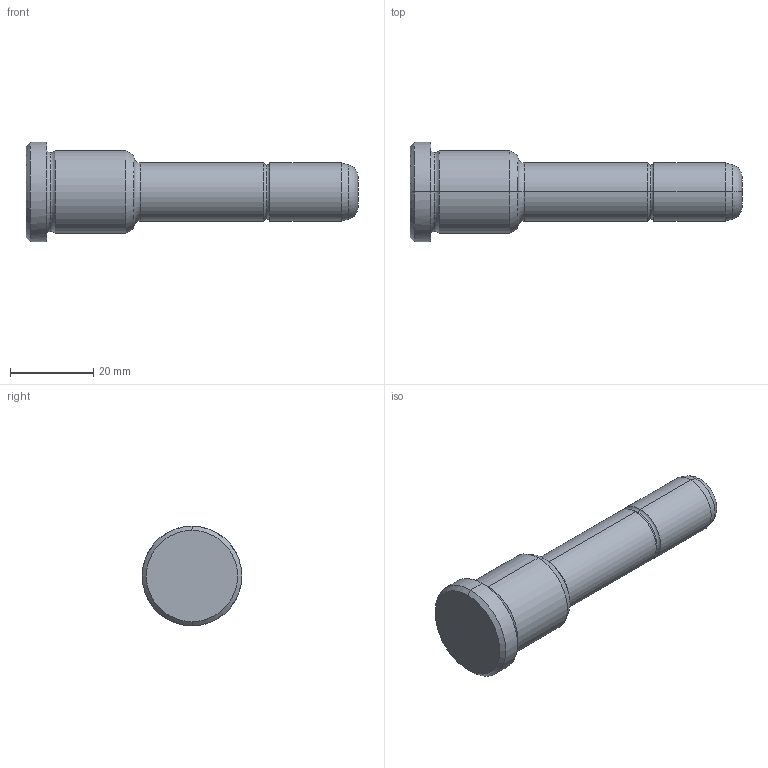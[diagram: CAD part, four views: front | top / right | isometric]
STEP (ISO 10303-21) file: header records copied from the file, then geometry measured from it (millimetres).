
FILE_DESCRIPTION(('CATIA V5 STEP Exchange'),'2;1');
FILE_NAME('C:\Users\Utente\Desktop\IO LAVORO\3D X SITO CF\X SITO\PLASTICA\351\351-14X26X80.stp','2021-08-18T09:55:22+00:00',('none'),('none'),'CATIA Version 5 Release 20 GA (IN-10)','CATIA V5 STEP AP203','none');
FILE_SCHEMA(('CONFIG_CONTROL_DESIGN'));
Length unit declared in the file: millimetre
Products named in the file (1): 351-14X26X80
Bounding box: 80 x 24 x 24 mm (x, y, z)
Volume: 16895.6 mm3; surface area: 4797.8 mm2
Topology: 1 solids, 1 shells, 30 faces, 86 edges, 60 vertices
Faces by surface type: torus 12, cylinder 8, cone 6, plane 4
Entity records: 1112 total; most frequent: CARTESIAN_POINT 289, ORIENTED_EDGE 172, DIRECTION 138, AXIS2_PLACEMENT_3D 95, EDGE_CURVE 86, CIRCLE 64, VERTEX_POINT 60, EDGE_LOOP 32
